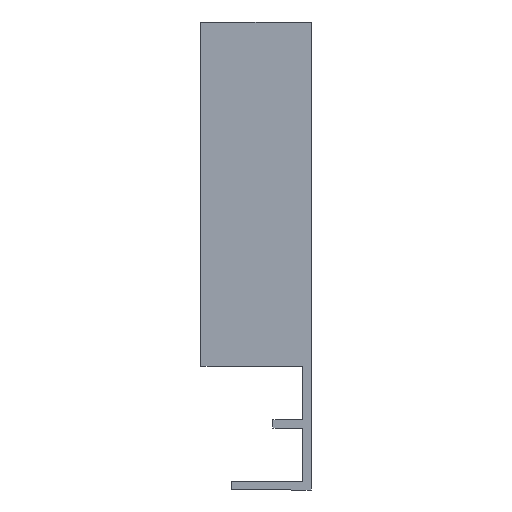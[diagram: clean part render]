
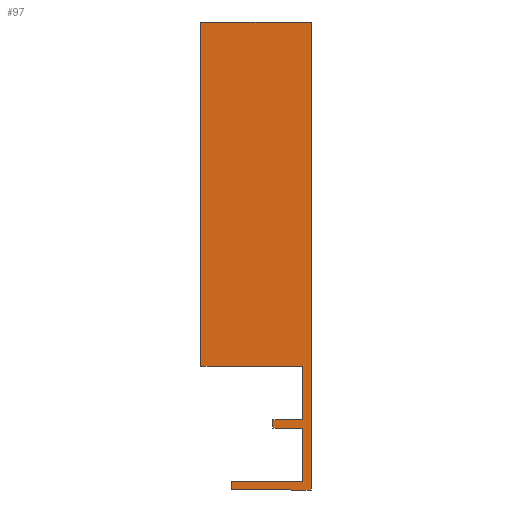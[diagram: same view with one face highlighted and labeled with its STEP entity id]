
A CAD part, left-side view. The second image highlights one B-rep face of the part: STEP entity #97.
In plain terms, the highlighted planar face has unit normal (-1, 0, 0).
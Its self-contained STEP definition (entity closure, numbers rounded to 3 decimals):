
#21 = LINE ( 'NONE', #471, #27 ) ;
#23 = LINE ( 'NONE', #479, #24 ) ;
#24 = VECTOR ( 'NONE', #480, 1000. ) ;
#27 = VECTOR ( 'NONE', #484, 1000. ) ;
#30 = LINE ( 'NONE', #487, #31 ) ;
#31 = VECTOR ( 'NONE', #488, 1000. ) ;
#38 = LINE ( 'NONE', #495, #39 ) ;
#39 = VECTOR ( 'NONE', #496, 1000. ) ;
#46 = LINE ( 'NONE', #503, #47 ) ;
#47 = VECTOR ( 'NONE', #504, 1000. ) ;
#53 = LINE ( 'NONE', #512, #54 ) ;
#54 = VECTOR ( 'NONE', #513, 1000. ) ;
#55 = LINE ( 'NONE', #515, #56 ) ;
#56 = VECTOR ( 'NONE', #516, 1000. ) ;
#70 = VERTEX_POINT ( 'NONE', #94 ) ;
#72 = VERTEX_POINT ( 'NONE', #79 ) ;
#76 = VERTEX_POINT ( 'NONE', #91 ) ;
#78 = VERTEX_POINT ( 'NONE', #349 ) ;
#79 = CARTESIAN_POINT ( 'NONE',  ( -536.5, 10.4, 0. ) ) ;
#80 = VERTEX_POINT ( 'NONE', #337 ) ;
#82 = VERTEX_POINT ( 'NONE', #360 ) ;
#84 = VERTEX_POINT ( 'NONE', #358 ) ;
#86 = VERTEX_POINT ( 'NONE', #355 ) ;
#90 = VERTEX_POINT ( 'NONE', #363 ) ;
#91 = CARTESIAN_POINT ( 'NONE',  ( -536.5, -4.3, -7.75 ) ) ;
#94 = CARTESIAN_POINT ( 'NONE',  ( -536.5, -5.5, -17.9 ) ) ;
#97 = ADVANCED_FACE ( 'NONE', ( #280 ), #367, .T. ) ;
#112 = EDGE_CURVE ( 'NONE', #354, #72, #262, .T. ) ;
#113 = EDGE_CURVE ( 'NONE', #72, #80, #272, .T. ) ;
#115 = EDGE_CURVE ( 'NONE', #84, #340, #263, .T. ) ;
#120 = EDGE_CURVE ( 'NONE', #70, #90, #254, .T. ) ;
#122 = EDGE_CURVE ( 'NONE', #80, #76, #269, .T. ) ;
#140 = AXIS2_PLACEMENT_3D ( 'NONE', #371, #377, #378 ) ;
#156 = EDGE_CURVE ( 'NONE', #78, #82, #23, .T. ) ;
#160 = EDGE_CURVE ( 'NONE', #90, #354, #21, .T. ) ;
#163 = EDGE_CURVE ( 'NONE', #76, #78, #30, .T. ) ;
#169 = EDGE_CURVE ( 'NONE', #86, #70, #38, .T. ) ;
#173 = EDGE_CURVE ( 'NONE', #82, #84, #46, .T. ) ;
#181 = EDGE_CURVE ( 'NONE', #340, #339, #53, .T. ) ;
#182 = EDGE_CURVE ( 'NONE', #339, #86, #55, .T. ) ;
#206 = EDGE_LOOP ( 'NONE', ( #317, #316, #315, #314, #313, #312, #311, #310, #309, #308, #307, #306 ) ) ;
#250 = VECTOR ( 'NONE', #440, 1000. ) ;
#253 = VECTOR ( 'NONE', #436, 1000. ) ;
#254 = LINE ( 'NONE', #435, #253 ) ;
#256 = VECTOR ( 'NONE', #434, 1000. ) ;
#260 = VECTOR ( 'NONE', #428, 1000. ) ;
#261 = VECTOR ( 'NONE', #430, 1000. ) ;
#262 = LINE ( 'NONE', #427, #260 ) ;
#263 = LINE ( 'NONE', #426, #256 ) ;
#269 = LINE ( 'NONE', #433, #250 ) ;
#272 = LINE ( 'NONE', #429, #261 ) ;
#280 = FACE_OUTER_BOUND ( 'NONE', #206, .T. ) ;
#306 = ORIENTED_EDGE ( 'NONE', *, *, #115, .T. ) ;
#307 = ORIENTED_EDGE ( 'NONE', *, *, #173, .T. ) ;
#308 = ORIENTED_EDGE ( 'NONE', *, *, #156, .T. ) ;
#309 = ORIENTED_EDGE ( 'NONE', *, *, #163, .T. ) ;
#310 = ORIENTED_EDGE ( 'NONE', *, *, #122, .T. ) ;
#311 = ORIENTED_EDGE ( 'NONE', *, *, #113, .T. ) ;
#312 = ORIENTED_EDGE ( 'NONE', *, *, #112, .T. ) ;
#313 = ORIENTED_EDGE ( 'NONE', *, *, #160, .T. ) ;
#314 = ORIENTED_EDGE ( 'NONE', *, *, #120, .T. ) ;
#315 = ORIENTED_EDGE ( 'NONE', *, *, #169, .T. ) ;
#316 = ORIENTED_EDGE ( 'NONE', *, *, #182, .T. ) ;
#317 = ORIENTED_EDGE ( 'NONE', *, *, #181, .T. ) ;
#337 = CARTESIAN_POINT ( 'NONE',  ( -536.5, -4.3, 0. ) ) ;
#339 = VERTEX_POINT ( 'NONE', #523 ) ;
#340 = VERTEX_POINT ( 'NONE', #526 ) ;
#349 = CARTESIAN_POINT ( 'NONE',  ( -536.5, 0., -7.75 ) ) ;
#354 = VERTEX_POINT ( 'NONE', #529 ) ;
#355 = CARTESIAN_POINT ( 'NONE',  ( -536.5, 6., -17.9 ) ) ;
#358 = CARTESIAN_POINT ( 'NONE',  ( -536.5, -4.3, -8.95 ) ) ;
#360 = CARTESIAN_POINT ( 'NONE',  ( -536.5, 0., -8.95 ) ) ;
#363 = CARTESIAN_POINT ( 'NONE',  ( -536.5, -5.5, 49.7 ) ) ;
#367 = PLANE ( 'NONE',  #140 ) ;
#371 = CARTESIAN_POINT ( 'NONE',  ( -536.5, 6., -16.7 ) ) ;
#377 = DIRECTION ( 'NONE',  ( -1., 0., 0. ) ) ;
#378 = DIRECTION ( 'NONE',  ( 0., -1., 0. ) ) ;
#426 = CARTESIAN_POINT ( 'NONE',  ( -536.5, -4.3, -8.95 ) ) ;
#427 = CARTESIAN_POINT ( 'NONE',  ( -536.5, 10.4, 49.7 ) ) ;
#428 = DIRECTION ( 'NONE',  ( 0., 0., -1. ) ) ;
#429 = CARTESIAN_POINT ( 'NONE',  ( -536.5, 10.4, 0. ) ) ;
#430 = DIRECTION ( 'NONE',  ( 0., -1., 0. ) ) ;
#433 = CARTESIAN_POINT ( 'NONE',  ( -536.5, -4.3, 0. ) ) ;
#434 = DIRECTION ( 'NONE',  ( 0., 0., -1. ) ) ;
#435 = CARTESIAN_POINT ( 'NONE',  ( -536.5, -5.5, -17.9 ) ) ;
#436 = DIRECTION ( 'NONE',  ( 0., 0., 1. ) ) ;
#440 = DIRECTION ( 'NONE',  ( 0., 0., -1. ) ) ;
#471 = CARTESIAN_POINT ( 'NONE',  ( -536.5, -5.5, 49.7 ) ) ;
#479 = CARTESIAN_POINT ( 'NONE',  ( -536.5, 0., -7.75 ) ) ;
#480 = DIRECTION ( 'NONE',  ( 0., 0., -1. ) ) ;
#484 = DIRECTION ( 'NONE',  ( 0., 1., 0. ) ) ;
#487 = CARTESIAN_POINT ( 'NONE',  ( -536.5, -4.3, -7.75 ) ) ;
#488 = DIRECTION ( 'NONE',  ( 0., 1., 0. ) ) ;
#495 = CARTESIAN_POINT ( 'NONE',  ( -536.5, 6., -17.9 ) ) ;
#496 = DIRECTION ( 'NONE',  ( 0., -1., 0. ) ) ;
#503 = CARTESIAN_POINT ( 'NONE',  ( -536.5, 0., -8.95 ) ) ;
#504 = DIRECTION ( 'NONE',  ( 0., -1., 0. ) ) ;
#512 = CARTESIAN_POINT ( 'NONE',  ( -536.5, -4.3, -16.7 ) ) ;
#513 = DIRECTION ( 'NONE',  ( 0., 1., 0. ) ) ;
#515 = CARTESIAN_POINT ( 'NONE',  ( -536.5, 6., -16.7 ) ) ;
#516 = DIRECTION ( 'NONE',  ( 0., 0., -1. ) ) ;
#523 = CARTESIAN_POINT ( 'NONE',  ( -536.5, 6., -16.7 ) ) ;
#526 = CARTESIAN_POINT ( 'NONE',  ( -536.5, -4.3, -16.7 ) ) ;
#529 = CARTESIAN_POINT ( 'NONE',  ( -536.5, 10.4, 49.7 ) ) ;
